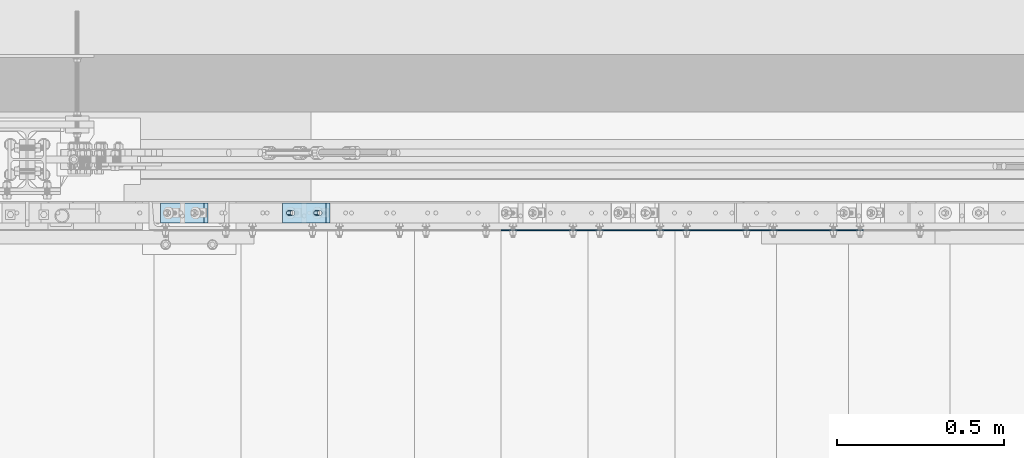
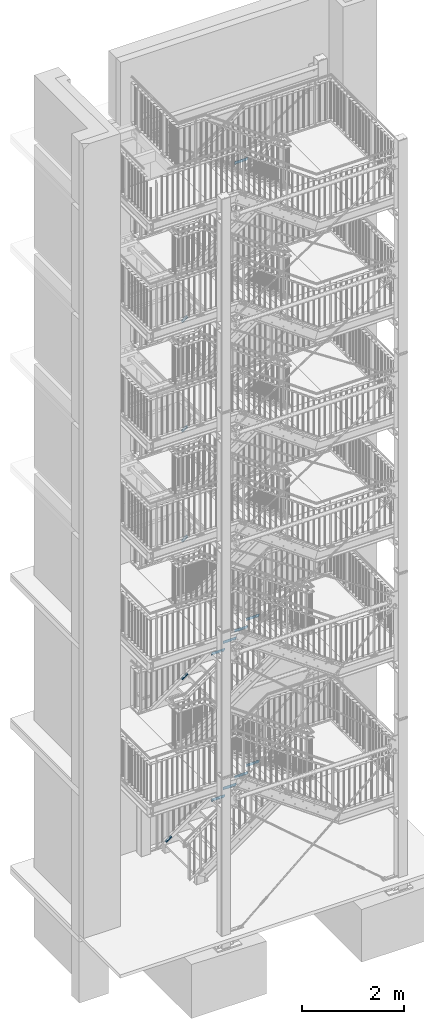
# One storey, part 192 of 821: 14 plates, 28 openings.
"""IFC2X3 building model written with IfcOpenShell, lengths in millimetres."""

from ifc_helpers import new_model, entity, si_unit, converted_unit, point, frame, frame_2d, origin, origin_with_axes, origin_2d_with_axis, place, context, project, spatial, polyline, circle_curve, line_curve, trimmed, segment, composite_curve, circle, outline, extrude, material, layer, layer_set, element, save


model = new_model("IFC2X3")

# Units and contexts
model_context = context("Model", 3, precision=1e-09, world=origin_with_axes())
ifc_project = project(units=[si_unit("LENGTHUNIT", "METRE", prefix="MILLI"), si_unit("AREAUNIT", "SQUARE_METRE"), si_unit("VOLUMEUNIT", "CUBIC_METRE"), converted_unit("PLANEANGLEUNIT", "DEGREE", entity("IfcPlaneAngleMeasure", 0.01745329), si_unit("PLANEANGLEUNIT", "RADIAN"), dimensions=[0, 0, 0, 0, 0, 0, 0])], contexts=[model_context])

# Site, building, storey
site_placement = place(None, origin_with_axes())
site = spatial("IfcSite", under=ifc_project, at=site_placement, Name="Cnopf'sche Kinderklinik", CompositionType="ELEMENT")
building_placement = place(site_placement, origin_with_axes())
building = spatial("IfcBuilding", under=site, at=building_placement, Name="Struktur 1", CompositionType="ELEMENT")
storey_placement = place(building_placement, origin_with_axes())
storey = spatial("IfcBuildingStorey", under=building, at=storey_placement, Name="Default Storey", CompositionType="ELEMENT", Elevation=0.0)

# Plate, openings
ifc_material = material(Name="S235JR")
ifc_layer_1 = layer(ifc_material, 3.0)
ifc_layer_set_1 = layer_set([ifc_layer_1], Name="S235JR")
plate_1_placement = place(None, frame((6796.713402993, 7306.736971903, 16376.8571432), z_axis=(0.0, -1.0, 0.0), x_axis=(0.0, 0.0, -1.0)))
plate_1 = element("IfcPlate", 1, at=plate_1_placement, inside=storey, material=ifc_layer_set_1, Name="Grate_Step#37", ObjectType="Grate_Step#37", context=model_context, shape_type="SweptSolid", body=[
    extrude(outline(polyline([(0.0, 0.0), (70.0, 0.0), (70.0, 275.0), (40.0, 305.0), (0.0, 305.0), (0.0, 0.0)])), origin_with_axes(), (0.0, 0.0, 1.0), 3.0),
])
opening_1_placement = place(plate_1_placement, frame((55.0, 35.0, 3.5), z_axis=(0.0, 0.0, -1.0), x_axis=(0.0, 1.0, 0.0)))
element("IfcOpeningElement", 2, at=opening_1_placement, cuts=plate_1, ObjectType="Opening", context=model_context, shape_type="SweptSolid", body=[
    extrude(circle(Radius=7.001, at=origin_2d_with_axis()), origin(), (0.0, 0.0, 1.0), 4.0),
])
opening_2_placement = place(plate_1_placement, frame((55.0, 215.0, 3.5), z_axis=(0.0, 0.0, -1.0), x_axis=(0.0, 1.0, 0.0)))
element("IfcOpeningElement", 3, at=opening_2_placement, cuts=plate_1, ObjectType="Opening", context=model_context, shape_type="SweptSolid", body=[
    extrude(outline(composite_curve([segment(trimmed(line_curve((-9.5, -7.001), (1.0, 0.0), 19.0), [point((-9.5, -7.001))], [point((9.5, -7.001))], True, "CARTESIAN"), True, "CONTINUOUS"), segment(trimmed(circle_curve(frame_2d((9.5, 0.0), x_axis=(1.0, 0.0)), 7.001), [point((9.5, -7.001))], [point((9.5, 7.001))], True, "CARTESIAN"), True, "CONTINUOUS"), segment(trimmed(line_curve((9.5, 7.001), (-1.0, 0.0), 19.0), [point((9.5, 7.001))], [point((-9.5, 7.001))], True, "CARTESIAN"), True, "CONTINUOUS"), segment(trimmed(circle_curve(frame_2d((-9.5, 0.0), x_axis=(1.0, 0.0)), 7.001), [point((-9.5, 7.001))], [point((-9.5, -7.001))], True, "CARTESIAN"), True, "CONTINUOUS")], self_intersect=False)), origin(), (0.0, 0.0, 1.0), 4.0),
])

ifc_layer_2 = layer(ifc_material, 20.0)
ifc_layer_set_2 = layer_set([ifc_layer_2], Name="S235JR")
plate_2_placement = place(None, frame((5398.387570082, 7386.736971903, 670.208105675), z_axis=(-0.579973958, 0.0, 0.814635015), x_axis=(-0.814635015, 0.0, -0.579973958)))
plate_2 = element("IfcPlate", 4, at=plate_2_placement, inside=storey, material=ifc_layer_set_2, Name="Plate#500", ObjectType="Plate#500", context=model_context, shape_type="SweptSolid", body=[
    extrude(outline(polyline([(0.0, 0.0), (160.0, 0.0), (160.0, 60.0), (0.0, 60.0), (0.0, 0.0)])), origin_with_axes(), (0.0, 0.0, 1.0), 20.0),
])
opening_3_placement = place(plate_2_placement, frame((38.0, 37.001, 20.5), z_axis=(0.0, 0.0, 1.0), x_axis=(-1.0, 0.0, 0.0)))
element("IfcOpeningElement", 5, at=opening_3_placement, cuts=plate_2, ObjectType="Opening", context=model_context, shape_type="SweptSolid", body=[
    extrude(outline(composite_curve([segment(trimmed(line_curve((0.0, 0.0), (1.0, 0.0), 16.0), [point((0.0, 0.0))], [point((16.0, 0.0))], True, "CARTESIAN"), True, "CONTINUOUS"), segment(trimmed(circle_curve(frame_2d((16.0, 7.001), x_axis=(1.0, 0.0)), 7.001), [point((16.0, 0.0))], [point((16.0, 14.002))], True, "CARTESIAN"), True, "CONTINUOUS"), segment(trimmed(line_curve((16.0, 14.002), (-1.0, 0.0), 16.0), [point((16.0, 14.002))], [point((0.0, 14.002))], True, "CARTESIAN"), True, "CONTINUOUS"), segment(trimmed(circle_curve(frame_2d((0.0, 7.001), x_axis=(1.0, 0.0)), 7.001), [point((0.0, 14.002))], [point((0.0, 0.0))], True, "CARTESIAN"), True, "CONTINUOUS")], self_intersect=False)), origin(), (0.0, 0.0, -1.0), 21.0),
])
opening_4_placement = place(plate_2_placement, frame((138.0, 37.001, 20.5), z_axis=(0.0, 0.0, 1.0), x_axis=(-1.0, 0.0, 0.0)))
element("IfcOpeningElement", 6, at=opening_4_placement, cuts=plate_2, ObjectType="Opening", context=model_context, shape_type="SweptSolid", body=[
    extrude(outline(composite_curve([segment(trimmed(line_curve((0.0, 0.0), (1.0, 0.0), 16.0), [point((0.0, 0.0))], [point((16.0, 0.0))], True, "CARTESIAN"), True, "CONTINUOUS"), segment(trimmed(circle_curve(frame_2d((16.0, 7.001), x_axis=(1.0, 0.0)), 7.001), [point((16.0, 0.0))], [point((16.0, 14.002))], True, "CARTESIAN"), True, "CONTINUOUS"), segment(trimmed(line_curve((16.0, 14.002), (-1.0, 0.0), 16.0), [point((16.0, 14.002))], [point((0.0, 14.002))], True, "CARTESIAN"), True, "CONTINUOUS"), segment(trimmed(circle_curve(frame_2d((0.0, 7.001), x_axis=(1.0, 0.0)), 7.001), [point((0.0, 14.002))], [point((0.0, 0.0))], True, "CARTESIAN"), True, "CONTINUOUS")], self_intersect=False)), origin(), (0.0, 0.0, -1.0), 21.0),
])

plate_3_placement = place(None, frame((5763.731258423, 7386.736971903, 4440.302229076), z_axis=(-0.575128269, 0.0, 0.818063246), x_axis=(-0.818063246, 0.0, -0.575128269)))
plate_3 = element("IfcPlate", 7, at=plate_3_placement, inside=storey, material=ifc_layer_set_2, Name="Plate#501", ObjectType="Plate#501", context=model_context, shape_type="SweptSolid", body=[
    extrude(outline(polyline([(0.0, 0.0), (160.0, 0.0), (160.0, 60.0), (0.0, 60.0), (0.0, 0.0)])), origin_with_axes(), (0.0, 0.0, 1.0), 20.0),
])
opening_5_placement = place(plate_3_placement, frame((38.0, 37.001, 20.5), z_axis=(0.0, 0.0, 1.0), x_axis=(-1.0, 0.0, 0.0)))
element("IfcOpeningElement", 8, at=opening_5_placement, cuts=plate_3, ObjectType="Opening", context=model_context, shape_type="SweptSolid", body=[
    extrude(outline(composite_curve([segment(trimmed(line_curve((0.0, 0.0), (1.0, 0.0), 16.0), [point((0.0, 0.0))], [point((16.0, 0.0))], True, "CARTESIAN"), True, "CONTINUOUS"), segment(trimmed(circle_curve(frame_2d((16.0, 7.001), x_axis=(1.0, 0.0)), 7.001), [point((16.0, 0.0))], [point((16.0, 14.002))], True, "CARTESIAN"), True, "CONTINUOUS"), segment(trimmed(line_curve((16.0, 14.002), (-1.0, 0.0), 16.0), [point((16.0, 14.002))], [point((0.0, 14.002))], True, "CARTESIAN"), True, "CONTINUOUS"), segment(trimmed(circle_curve(frame_2d((0.0, 7.001), x_axis=(1.0, 0.0)), 7.001), [point((0.0, 14.002))], [point((0.0, 0.0))], True, "CARTESIAN"), True, "CONTINUOUS")], self_intersect=False)), origin(), (0.0, 0.0, -1.0), 21.0),
])
opening_6_placement = place(plate_3_placement, frame((138.0, 37.001, 20.5), z_axis=(0.0, 0.0, 1.0), x_axis=(-1.0, 0.0, 0.0)))
element("IfcOpeningElement", 9, at=opening_6_placement, cuts=plate_3, ObjectType="Opening", context=model_context, shape_type="SweptSolid", body=[
    extrude(outline(composite_curve([segment(trimmed(line_curve((0.0, 0.0), (1.0, 0.0), 16.0), [point((0.0, 0.0))], [point((16.0, 0.0))], True, "CARTESIAN"), True, "CONTINUOUS"), segment(trimmed(circle_curve(frame_2d((16.0, 7.001), x_axis=(1.0, 0.0)), 7.001), [point((16.0, 0.0))], [point((16.0, 14.002))], True, "CARTESIAN"), True, "CONTINUOUS"), segment(trimmed(line_curve((16.0, 14.002), (-1.0, 0.0), 16.0), [point((16.0, 14.002))], [point((0.0, 14.002))], True, "CARTESIAN"), True, "CONTINUOUS"), segment(trimmed(circle_curve(frame_2d((0.0, 7.001), x_axis=(1.0, 0.0)), 7.001), [point((0.0, 14.002))], [point((0.0, 0.0))], True, "CARTESIAN"), True, "CONTINUOUS")], self_intersect=False)), origin(), (0.0, 0.0, -1.0), 21.0),
])

plate_4_placement = place(None, frame((5763.236162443, 7386.736971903, 7740.716456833), z_axis=(-0.585945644, 0.0, 0.810350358), x_axis=(-0.810350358, 0.0, -0.585945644)))
plate_4 = element("IfcPlate", 10, at=plate_4_placement, inside=storey, material=ifc_layer_set_2, Name="Plate#501", ObjectType="Plate#501", context=model_context, shape_type="SweptSolid", body=[
    extrude(outline(polyline([(0.0, 0.0), (160.0, 0.0), (160.0, 60.0), (0.0, 60.0), (0.0, 0.0)])), origin_with_axes(), (0.0, 0.0, 1.0), 20.0),
])
opening_7_placement = place(plate_4_placement, frame((38.0, 37.001, 20.5), z_axis=(0.0, 0.0, 1.0), x_axis=(-1.0, 0.0, 0.0)))
element("IfcOpeningElement", 11, at=opening_7_placement, cuts=plate_4, ObjectType="Opening", context=model_context, shape_type="SweptSolid", body=[
    extrude(outline(composite_curve([segment(trimmed(line_curve((0.0, 0.0), (1.0, 0.0), 16.0), [point((0.0, 0.0))], [point((16.0, 0.0))], True, "CARTESIAN"), True, "CONTINUOUS"), segment(trimmed(circle_curve(frame_2d((16.0, 7.001), x_axis=(1.0, 0.0)), 7.001), [point((16.0, 0.0))], [point((16.0, 14.002))], True, "CARTESIAN"), True, "CONTINUOUS"), segment(trimmed(line_curve((16.0, 14.002), (-1.0, 0.0), 16.0), [point((16.0, 14.002))], [point((0.0, 14.002))], True, "CARTESIAN"), True, "CONTINUOUS"), segment(trimmed(circle_curve(frame_2d((0.0, 7.001), x_axis=(1.0, 0.0)), 7.001), [point((0.0, 14.002))], [point((0.0, 0.0))], True, "CARTESIAN"), True, "CONTINUOUS")], self_intersect=False)), origin(), (0.0, 0.0, -1.0), 21.0),
])
opening_8_placement = place(plate_4_placement, frame((138.0, 37.001, 20.5), z_axis=(0.0, 0.0, 1.0), x_axis=(-1.0, 0.0, 0.0)))
element("IfcOpeningElement", 12, at=opening_8_placement, cuts=plate_4, ObjectType="Opening", context=model_context, shape_type="SweptSolid", body=[
    extrude(outline(composite_curve([segment(trimmed(line_curve((0.0, 0.0), (1.0, 0.0), 16.0), [point((0.0, 0.0))], [point((16.0, 0.0))], True, "CARTESIAN"), True, "CONTINUOUS"), segment(trimmed(circle_curve(frame_2d((16.0, 7.001), x_axis=(1.0, 0.0)), 7.001), [point((16.0, 0.0))], [point((16.0, 14.002))], True, "CARTESIAN"), True, "CONTINUOUS"), segment(trimmed(line_curve((16.0, 14.002), (-1.0, 0.0), 16.0), [point((16.0, 14.002))], [point((0.0, 14.002))], True, "CARTESIAN"), True, "CONTINUOUS"), segment(trimmed(circle_curve(frame_2d((0.0, 7.001), x_axis=(1.0, 0.0)), 7.001), [point((0.0, 14.002))], [point((0.0, 0.0))], True, "CARTESIAN"), True, "CONTINUOUS")], self_intersect=False)), origin(), (0.0, 0.0, -1.0), 21.0),
])

plate_5_placement = place(None, frame((5763.281182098, 7386.736971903, 10372.025702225), z_axis=(-0.585213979, 0.0, 0.810878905), x_axis=(-0.810878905, 0.0, -0.585213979)))
plate_5 = element("IfcPlate", 13, at=plate_5_placement, inside=storey, material=ifc_layer_set_2, Name="Plate#501", ObjectType="Plate#501", context=model_context, shape_type="SweptSolid", body=[
    extrude(outline(polyline([(0.0, 0.0), (160.0, 0.0), (160.0, 60.0), (0.0, 60.0), (0.0, 0.0)])), origin_with_axes(), (0.0, 0.0, 1.0), 20.0),
])
opening_9_placement = place(plate_5_placement, frame((38.0, 37.001, 20.5), z_axis=(0.0, 0.0, 1.0), x_axis=(-1.0, 0.0, 0.0)))
element("IfcOpeningElement", 14, at=opening_9_placement, cuts=plate_5, ObjectType="Opening", context=model_context, shape_type="SweptSolid", body=[
    extrude(outline(composite_curve([segment(trimmed(line_curve((0.0, 0.0), (1.0, 0.0), 16.0), [point((0.0, 0.0))], [point((16.0, 0.0))], True, "CARTESIAN"), True, "CONTINUOUS"), segment(trimmed(circle_curve(frame_2d((16.0, 7.001), x_axis=(1.0, 0.0)), 7.001), [point((16.0, 0.0))], [point((16.0, 14.002))], True, "CARTESIAN"), True, "CONTINUOUS"), segment(trimmed(line_curve((16.0, 14.002), (-1.0, 0.0), 16.0), [point((16.0, 14.002))], [point((0.0, 14.002))], True, "CARTESIAN"), True, "CONTINUOUS"), segment(trimmed(circle_curve(frame_2d((0.0, 7.001), x_axis=(1.0, 0.0)), 7.001), [point((0.0, 14.002))], [point((0.0, 0.0))], True, "CARTESIAN"), True, "CONTINUOUS")], self_intersect=False)), origin(), (0.0, 0.0, -1.0), 21.0),
])
opening_10_placement = place(plate_5_placement, frame((138.0, 37.001, 20.5), z_axis=(0.0, 0.0, 1.0), x_axis=(-1.0, 0.0, 0.0)))
element("IfcOpeningElement", 15, at=opening_10_placement, cuts=plate_5, ObjectType="Opening", context=model_context, shape_type="SweptSolid", body=[
    extrude(outline(composite_curve([segment(trimmed(line_curve((0.0, 0.0), (1.0, 0.0), 16.0), [point((0.0, 0.0))], [point((16.0, 0.0))], True, "CARTESIAN"), True, "CONTINUOUS"), segment(trimmed(circle_curve(frame_2d((16.0, 7.001), x_axis=(1.0, 0.0)), 7.001), [point((16.0, 0.0))], [point((16.0, 14.002))], True, "CARTESIAN"), True, "CONTINUOUS"), segment(trimmed(line_curve((16.0, 14.002), (-1.0, 0.0), 16.0), [point((16.0, 14.002))], [point((0.0, 14.002))], True, "CARTESIAN"), True, "CONTINUOUS"), segment(trimmed(circle_curve(frame_2d((0.0, 7.001), x_axis=(1.0, 0.0)), 7.001), [point((0.0, 14.002))], [point((0.0, 0.0))], True, "CARTESIAN"), True, "CONTINUOUS")], self_intersect=False)), origin(), (0.0, 0.0, -1.0), 21.0),
])

plate_6_placement = place(None, frame((5763.209151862, 7386.736971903, 13000.130851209), z_axis=(-0.586383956, 0.0, 0.810033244), x_axis=(-0.810033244, 0.0, -0.586383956)))
plate_6 = element("IfcPlate", 16, at=plate_6_placement, inside=storey, material=ifc_layer_set_2, Name="Plate#501", ObjectType="Plate#501", context=model_context, shape_type="SweptSolid", body=[
    extrude(outline(polyline([(0.0, 0.0), (160.0, 0.0), (160.0, 60.0), (0.0, 60.0), (0.0, 0.0)])), origin_with_axes(), (0.0, 0.0, 1.0), 20.0),
])
opening_11_placement = place(plate_6_placement, frame((38.0, 37.001, 20.5), z_axis=(0.0, 0.0, 1.0), x_axis=(-1.0, 0.0, 0.0)))
element("IfcOpeningElement", 17, at=opening_11_placement, cuts=plate_6, ObjectType="Opening", context=model_context, shape_type="SweptSolid", body=[
    extrude(outline(composite_curve([segment(trimmed(line_curve((0.0, 0.0), (1.0, 0.0), 16.0), [point((0.0, 0.0))], [point((16.0, 0.0))], True, "CARTESIAN"), True, "CONTINUOUS"), segment(trimmed(circle_curve(frame_2d((16.0, 7.001), x_axis=(1.0, 0.0)), 7.001), [point((16.0, 0.0))], [point((16.0, 14.002))], True, "CARTESIAN"), True, "CONTINUOUS"), segment(trimmed(line_curve((16.0, 14.002), (-1.0, 0.0), 16.0), [point((16.0, 14.002))], [point((0.0, 14.002))], True, "CARTESIAN"), True, "CONTINUOUS"), segment(trimmed(circle_curve(frame_2d((0.0, 7.001), x_axis=(1.0, 0.0)), 7.001), [point((0.0, 14.002))], [point((0.0, 0.0))], True, "CARTESIAN"), True, "CONTINUOUS")], self_intersect=False)), origin(), (0.0, 0.0, -1.0), 21.0),
])
opening_12_placement = place(plate_6_placement, frame((138.0, 37.001, 20.5), z_axis=(0.0, 0.0, 1.0), x_axis=(-1.0, 0.0, 0.0)))
element("IfcOpeningElement", 18, at=opening_12_placement, cuts=plate_6, ObjectType="Opening", context=model_context, shape_type="SweptSolid", body=[
    extrude(outline(composite_curve([segment(trimmed(line_curve((0.0, 0.0), (1.0, 0.0), 16.0), [point((0.0, 0.0))], [point((16.0, 0.0))], True, "CARTESIAN"), True, "CONTINUOUS"), segment(trimmed(circle_curve(frame_2d((16.0, 7.001), x_axis=(1.0, 0.0)), 7.001), [point((16.0, 0.0))], [point((16.0, 14.002))], True, "CARTESIAN"), True, "CONTINUOUS"), segment(trimmed(line_curve((16.0, 14.002), (-1.0, 0.0), 16.0), [point((16.0, 14.002))], [point((0.0, 14.002))], True, "CARTESIAN"), True, "CONTINUOUS"), segment(trimmed(circle_curve(frame_2d((0.0, 7.001), x_axis=(1.0, 0.0)), 7.001), [point((0.0, 14.002))], [point((0.0, 0.0))], True, "CARTESIAN"), True, "CONTINUOUS")], self_intersect=False)), origin(), (0.0, 0.0, -1.0), 21.0),
])

plate_7_placement = place(None, frame((6276.713402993, 7306.736971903, 1295.5263152), z_axis=(0.0, -1.0, 0.0), x_axis=(0.0, 0.0, -1.0)))
plate_7 = element("IfcPlate", 19, at=plate_7_placement, inside=storey, material=ifc_layer_set_1, Name="Grate_Step#30", ObjectType="Grate_Step#30", context=model_context, shape_type="SweptSolid", body=[
    extrude(outline(polyline([(0.0, 0.0), (70.0, 0.0), (70.0, 275.0), (40.0, 305.0), (0.0, 305.0), (0.0, 0.0)])), origin_with_axes(), (0.0, 0.0, 1.0), 3.0),
])
opening_13_placement = place(plate_7_placement, frame((55.0, 35.0, 3.5), z_axis=(0.0, 0.0, -1.0), x_axis=(0.0, 1.0, 0.0)))
element("IfcOpeningElement", 20, at=opening_13_placement, cuts=plate_7, ObjectType="Opening", context=model_context, shape_type="SweptSolid", body=[
    extrude(circle(Radius=7.001, at=origin_2d_with_axis()), origin(), (0.0, 0.0, 1.0), 4.0),
])
opening_14_placement = place(plate_7_placement, frame((55.0, 215.0, 3.5), z_axis=(0.0, 0.0, -1.0), x_axis=(0.0, 1.0, 0.0)))
element("IfcOpeningElement", 21, at=opening_14_placement, cuts=plate_7, ObjectType="Opening", context=model_context, shape_type="SweptSolid", body=[
    extrude(outline(composite_curve([segment(trimmed(line_curve((-9.5, -7.001), (1.0, 0.0), 19.0), [point((-9.5, -7.001))], [point((9.5, -7.001))], True, "CARTESIAN"), True, "CONTINUOUS"), segment(trimmed(circle_curve(frame_2d((9.5, 0.0), x_axis=(1.0, 0.0)), 7.001), [point((9.5, -7.001))], [point((9.5, 7.001))], True, "CARTESIAN"), True, "CONTINUOUS"), segment(trimmed(line_curve((9.5, 7.001), (-1.0, 0.0), 19.0), [point((9.5, 7.001))], [point((-9.5, 7.001))], True, "CARTESIAN"), True, "CONTINUOUS"), segment(trimmed(circle_curve(frame_2d((-9.5, 0.0), x_axis=(1.0, 0.0)), 7.001), [point((-9.5, 7.001))], [point((-9.5, -7.001))], True, "CARTESIAN"), True, "CONTINUOUS")], self_intersect=False)), origin(), (0.0, 0.0, 1.0), 4.0),
])

plate_8_placement = place(None, frame((6796.713402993, 7306.736971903, 1665.7368416), z_axis=(0.0, -1.0, 0.0), x_axis=(0.0, 0.0, -1.0)))
plate_8 = element("IfcPlate", 22, at=plate_8_placement, inside=storey, material=ifc_layer_set_1, Name="Grate_Step#44", ObjectType="Grate_Step#44", context=model_context, shape_type="SweptSolid", body=[
    extrude(outline(polyline([(0.0, 0.0), (70.0, 0.0), (70.0, 275.0), (40.0, 305.0), (0.0, 305.0), (0.0, 0.0)])), origin_with_axes(), (0.0, 0.0, 1.0), 3.0),
])
opening_15_placement = place(plate_8_placement, frame((55.0, 35.0, 3.5), z_axis=(0.0, 0.0, -1.0), x_axis=(0.0, 1.0, 0.0)))
element("IfcOpeningElement", 23, at=opening_15_placement, cuts=plate_8, ObjectType="Opening", context=model_context, shape_type="SweptSolid", body=[
    extrude(circle(Radius=7.001, at=origin_2d_with_axis()), origin(), (0.0, 0.0, 1.0), 4.0),
])
opening_16_placement = place(plate_8_placement, frame((55.0, 215.0, 3.5), z_axis=(0.0, 0.0, -1.0), x_axis=(0.0, 1.0, 0.0)))
element("IfcOpeningElement", 24, at=opening_16_placement, cuts=plate_8, ObjectType="Opening", context=model_context, shape_type="SweptSolid", body=[
    extrude(outline(composite_curve([segment(trimmed(line_curve((-9.5, -7.001), (1.0, 0.0), 19.0), [point((-9.5, -7.001))], [point((9.5, -7.001))], True, "CARTESIAN"), True, "CONTINUOUS"), segment(trimmed(circle_curve(frame_2d((9.5, 0.0), x_axis=(1.0, 0.0)), 7.001), [point((9.5, -7.001))], [point((9.5, 7.001))], True, "CARTESIAN"), True, "CONTINUOUS"), segment(trimmed(line_curve((9.5, 7.001), (-1.0, 0.0), 19.0), [point((9.5, 7.001))], [point((-9.5, 7.001))], True, "CARTESIAN"), True, "CONTINUOUS"), segment(trimmed(circle_curve(frame_2d((-9.5, 0.0), x_axis=(1.0, 0.0)), 7.001), [point((-9.5, 7.001))], [point((-9.5, -7.001))], True, "CARTESIAN"), True, "CONTINUOUS")], self_intersect=False)), origin(), (0.0, 0.0, 1.0), 4.0),
])

plate_9_placement = place(None, frame((6536.713402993, 7306.736971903, 4983.7368419), z_axis=(0.0, -1.0, 0.0), x_axis=(0.0, 0.0, -1.0)))
plate_9 = element("IfcPlate", 25, at=plate_9_placement, inside=storey, material=ifc_layer_set_1, Name="Grate_Step#37", ObjectType="Grate_Step#37", context=model_context, shape_type="SweptSolid", body=[
    extrude(outline(polyline([(0.0, 0.0), (70.0, 0.0), (70.0, 275.0), (40.0, 305.0), (0.0, 305.0), (0.0, 0.0)])), origin_with_axes(), (0.0, 0.0, 1.0), 3.0),
])
opening_17_placement = place(plate_9_placement, frame((55.0, 35.0, 3.5), z_axis=(0.0, 0.0, -1.0), x_axis=(0.0, 1.0, 0.0)))
element("IfcOpeningElement", 26, at=opening_17_placement, cuts=plate_9, ObjectType="Opening", context=model_context, shape_type="SweptSolid", body=[
    extrude(circle(Radius=7.001, at=origin_2d_with_axis()), origin(), (0.0, 0.0, 1.0), 4.0),
])
opening_18_placement = place(plate_9_placement, frame((55.0, 215.0, 3.5), z_axis=(0.0, 0.0, -1.0), x_axis=(0.0, 1.0, 0.0)))
element("IfcOpeningElement", 27, at=opening_18_placement, cuts=plate_9, ObjectType="Opening", context=model_context, shape_type="SweptSolid", body=[
    extrude(outline(composite_curve([segment(trimmed(line_curve((-9.5, -7.001), (1.0, 0.0), 19.0), [point((-9.5, -7.001))], [point((9.5, -7.001))], True, "CARTESIAN"), True, "CONTINUOUS"), segment(trimmed(circle_curve(frame_2d((9.5, 0.0), x_axis=(1.0, 0.0)), 7.001), [point((9.5, -7.001))], [point((9.5, 7.001))], True, "CARTESIAN"), True, "CONTINUOUS"), segment(trimmed(line_curve((9.5, 7.001), (-1.0, 0.0), 19.0), [point((9.5, 7.001))], [point((-9.5, 7.001))], True, "CARTESIAN"), True, "CONTINUOUS"), segment(trimmed(circle_curve(frame_2d((-9.5, 0.0), x_axis=(1.0, 0.0)), 7.001), [point((-9.5, 7.001))], [point((-9.5, -7.001))], True, "CARTESIAN"), True, "CONTINUOUS")], self_intersect=False)), origin(), (0.0, 0.0, 1.0), 4.0),
])

plate_10_placement = place(None, frame((7056.713402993, 7306.736971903, 5349.3157893), z_axis=(0.0, -1.0, 0.0), x_axis=(0.0, 0.0, -1.0)))
plate_10 = element("IfcPlate", 28, at=plate_10_placement, inside=storey, material=ifc_layer_set_1, Name="Grate_Step#51", ObjectType="Grate_Step#51", context=model_context, shape_type="SweptSolid", body=[
    extrude(outline(polyline([(0.0, 0.0), (70.0, 0.0), (70.0, 275.0), (40.0, 305.0), (0.0, 305.0), (0.0, 0.0)])), origin_with_axes(), (0.0, 0.0, 1.0), 3.0),
])
opening_19_placement = place(plate_10_placement, frame((55.0, 215.0, 3.5), z_axis=(0.0, 0.0, -1.0), x_axis=(0.0, 1.0, 0.0)))
element("IfcOpeningElement", 29, at=opening_19_placement, cuts=plate_10, ObjectType="Opening", context=model_context, shape_type="SweptSolid", body=[
    extrude(outline(composite_curve([segment(trimmed(line_curve((-9.5, -7.001), (1.0, 0.0), 19.0), [point((-9.5, -7.001))], [point((9.5, -7.001))], True, "CARTESIAN"), True, "CONTINUOUS"), segment(trimmed(circle_curve(frame_2d((9.5, 0.0), x_axis=(1.0, 0.0)), 7.001), [point((9.5, -7.001))], [point((9.5, 7.001))], True, "CARTESIAN"), True, "CONTINUOUS"), segment(trimmed(line_curve((9.5, 7.001), (-1.0, 0.0), 19.0), [point((9.5, 7.001))], [point((-9.5, 7.001))], True, "CARTESIAN"), True, "CONTINUOUS"), segment(trimmed(circle_curve(frame_2d((-9.5, 0.0), x_axis=(1.0, 0.0)), 7.001), [point((-9.5, 7.001))], [point((-9.5, -7.001))], True, "CARTESIAN"), True, "CONTINUOUS")], self_intersect=False)), origin(), (0.0, 0.0, 1.0), 4.0),
])
opening_20_placement = place(plate_10_placement, frame((55.0, 35.0, 3.5), z_axis=(0.0, 0.0, -1.0), x_axis=(0.0, 1.0, 0.0)))
element("IfcOpeningElement", 30, at=opening_20_placement, cuts=plate_10, ObjectType="Opening", context=model_context, shape_type="SweptSolid", body=[
    extrude(circle(Radius=7.001, at=origin_2d_with_axis()), origin(), (0.0, 0.0, 1.0), 4.0),
])

plate_11_placement = place(None, frame((6276.713402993, 7306.736971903, 4800.9473682), z_axis=(0.0, -1.0, 0.0), x_axis=(0.0, 0.0, -1.0)))
plate_11 = element("IfcPlate", 31, at=plate_11_placement, inside=storey, material=ifc_layer_set_1, Name="Grate_Step#30", ObjectType="Grate_Step#30", context=model_context, shape_type="SweptSolid", body=[
    extrude(outline(polyline([(0.0, 0.0), (70.0, 0.0), (70.0, 275.0), (40.0, 305.0), (0.0, 305.0), (0.0, 0.0)])), origin_with_axes(), (0.0, 0.0, 1.0), 3.0),
])
opening_21_placement = place(plate_11_placement, frame((55.0, 215.0, 3.5), z_axis=(0.0, 0.0, -1.0), x_axis=(0.0, 1.0, 0.0)))
element("IfcOpeningElement", 32, at=opening_21_placement, cuts=plate_11, ObjectType="Opening", context=model_context, shape_type="SweptSolid", body=[
    extrude(outline(composite_curve([segment(trimmed(line_curve((-9.5, -7.001), (1.0, 0.0), 19.0), [point((-9.5, -7.001))], [point((9.5, -7.001))], True, "CARTESIAN"), True, "CONTINUOUS"), segment(trimmed(circle_curve(frame_2d((9.5, 0.0), x_axis=(1.0, 0.0)), 7.001), [point((9.5, -7.001))], [point((9.5, 7.001))], True, "CARTESIAN"), True, "CONTINUOUS"), segment(trimmed(line_curve((9.5, 7.001), (-1.0, 0.0), 19.0), [point((9.5, 7.001))], [point((-9.5, 7.001))], True, "CARTESIAN"), True, "CONTINUOUS"), segment(trimmed(circle_curve(frame_2d((-9.5, 0.0), x_axis=(1.0, 0.0)), 7.001), [point((-9.5, 7.001))], [point((-9.5, -7.001))], True, "CARTESIAN"), True, "CONTINUOUS")], self_intersect=False)), origin(), (0.0, 0.0, 1.0), 4.0),
])
opening_22_placement = place(plate_11_placement, frame((55.0, 35.0, 3.5), z_axis=(0.0, 0.0, -1.0), x_axis=(0.0, 1.0, 0.0)))
element("IfcOpeningElement", 33, at=opening_22_placement, cuts=plate_11, ObjectType="Opening", context=model_context, shape_type="SweptSolid", body=[
    extrude(circle(Radius=7.001, at=origin_2d_with_axis()), origin(), (0.0, 0.0, 1.0), 4.0),
])

plate_12_placement = place(None, frame((6796.713402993, 7306.736971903, 5166.5263156), z_axis=(0.0, -1.0, 0.0), x_axis=(0.0, 0.0, -1.0)))
plate_12 = element("IfcPlate", 34, at=plate_12_placement, inside=storey, material=ifc_layer_set_1, Name="Grate_Step#44", ObjectType="Grate_Step#44", context=model_context, shape_type="SweptSolid", body=[
    extrude(outline(polyline([(0.0, 0.0), (70.0, 0.0), (70.0, 275.0), (40.0, 305.0), (0.0, 305.0), (0.0, 0.0)])), origin_with_axes(), (0.0, 0.0, 1.0), 3.0),
])
opening_23_placement = place(plate_12_placement, frame((55.0, 35.0, 3.5), z_axis=(0.0, 0.0, -1.0), x_axis=(0.0, 1.0, 0.0)))
element("IfcOpeningElement", 35, at=opening_23_placement, cuts=plate_12, ObjectType="Opening", context=model_context, shape_type="SweptSolid", body=[
    extrude(circle(Radius=7.001, at=origin_2d_with_axis()), origin(), (0.0, 0.0, 1.0), 4.0),
])
opening_24_placement = place(plate_12_placement, frame((55.0, 215.0, 3.5), z_axis=(0.0, 0.0, -1.0), x_axis=(0.0, 1.0, 0.0)))
element("IfcOpeningElement", 36, at=opening_24_placement, cuts=plate_12, ObjectType="Opening", context=model_context, shape_type="SweptSolid", body=[
    extrude(outline(composite_curve([segment(trimmed(line_curve((-9.5, -7.001), (1.0, 0.0), 19.0), [point((-9.5, -7.001))], [point((9.5, -7.001))], True, "CARTESIAN"), True, "CONTINUOUS"), segment(trimmed(circle_curve(frame_2d((9.5, 0.0), x_axis=(1.0, 0.0)), 7.001), [point((9.5, -7.001))], [point((9.5, 7.001))], True, "CARTESIAN"), True, "CONTINUOUS"), segment(trimmed(line_curve((9.5, 7.001), (-1.0, 0.0), 19.0), [point((9.5, 7.001))], [point((-9.5, 7.001))], True, "CARTESIAN"), True, "CONTINUOUS"), segment(trimmed(circle_curve(frame_2d((-9.5, 0.0), x_axis=(1.0, 0.0)), 7.001), [point((-9.5, 7.001))], [point((-9.5, -7.001))], True, "CARTESIAN"), True, "CONTINUOUS")], self_intersect=False)), origin(), (0.0, 0.0, 1.0), 4.0),
])

plate_13_placement = place(None, frame((6536.713402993, 7306.736971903, 1480.6315784), z_axis=(0.0, -1.0, 0.0), x_axis=(0.0, 0.0, -1.0)))
plate_13 = element("IfcPlate", 37, at=plate_13_placement, inside=storey, material=ifc_layer_set_1, Name="Grate_Step#37", ObjectType="Grate_Step#37", context=model_context, shape_type="SweptSolid", body=[
    extrude(outline(polyline([(0.0, 0.0), (70.0, 0.0), (70.0, 275.0), (40.0, 305.0), (0.0, 305.0), (0.0, 0.0)])), origin_with_axes(), (0.0, 0.0, 1.0), 3.0),
])
opening_25_placement = place(plate_13_placement, frame((55.0, 35.0, 3.5), z_axis=(0.0, 0.0, -1.0), x_axis=(0.0, 1.0, 0.0)))
element("IfcOpeningElement", 38, at=opening_25_placement, cuts=plate_13, ObjectType="Opening", context=model_context, shape_type="SweptSolid", body=[
    extrude(circle(Radius=7.001, at=origin_2d_with_axis()), origin(), (0.0, 0.0, 1.0), 4.0),
])
opening_26_placement = place(plate_13_placement, frame((55.0, 215.0, 3.5), z_axis=(0.0, 0.0, -1.0), x_axis=(0.0, 1.0, 0.0)))
element("IfcOpeningElement", 39, at=opening_26_placement, cuts=plate_13, ObjectType="Opening", context=model_context, shape_type="SweptSolid", body=[
    extrude(outline(composite_curve([segment(trimmed(line_curve((-9.5, -7.001), (1.0, 0.0), 19.0), [point((-9.5, -7.001))], [point((9.5, -7.001))], True, "CARTESIAN"), True, "CONTINUOUS"), segment(trimmed(circle_curve(frame_2d((9.5, 0.0), x_axis=(1.0, 0.0)), 7.001), [point((9.5, -7.001))], [point((9.5, 7.001))], True, "CARTESIAN"), True, "CONTINUOUS"), segment(trimmed(line_curve((9.5, 7.001), (-1.0, 0.0), 19.0), [point((9.5, 7.001))], [point((-9.5, 7.001))], True, "CARTESIAN"), True, "CONTINUOUS"), segment(trimmed(circle_curve(frame_2d((-9.5, 0.0), x_axis=(1.0, 0.0)), 7.001), [point((-9.5, 7.001))], [point((-9.5, -7.001))], True, "CARTESIAN"), True, "CONTINUOUS")], self_intersect=False)), origin(), (0.0, 0.0, 1.0), 4.0),
])

plate_14_placement = place(None, frame((7056.713402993, 7306.736971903, 1850.8421048), z_axis=(0.0, -1.0, 0.0), x_axis=(0.0, 0.0, -1.0)))
plate_14 = element("IfcPlate", 40, at=plate_14_placement, inside=storey, material=ifc_layer_set_1, Name="Grate_Step#51", ObjectType="Grate_Step#51", context=model_context, shape_type="SweptSolid", body=[
    extrude(outline(polyline([(0.0, 0.0), (70.0, 0.0), (70.0, 275.0), (40.0, 305.0), (0.0, 305.0), (0.0, 0.0)])), origin_with_axes(), (0.0, 0.0, 1.0), 3.0),
])
opening_27_placement = place(plate_14_placement, frame((55.0, 215.0, 3.5), z_axis=(0.0, 0.0, -1.0), x_axis=(0.0, 1.0, 0.0)))
element("IfcOpeningElement", 41, at=opening_27_placement, cuts=plate_14, ObjectType="Opening", context=model_context, shape_type="SweptSolid", body=[
    extrude(outline(composite_curve([segment(trimmed(line_curve((-9.5, -7.001), (1.0, 0.0), 19.0), [point((-9.5, -7.001))], [point((9.5, -7.001))], True, "CARTESIAN"), True, "CONTINUOUS"), segment(trimmed(circle_curve(frame_2d((9.5, 0.0), x_axis=(1.0, 0.0)), 7.001), [point((9.5, -7.001))], [point((9.5, 7.001))], True, "CARTESIAN"), True, "CONTINUOUS"), segment(trimmed(line_curve((9.5, 7.001), (-1.0, 0.0), 19.0), [point((9.5, 7.001))], [point((-9.5, 7.001))], True, "CARTESIAN"), True, "CONTINUOUS"), segment(trimmed(circle_curve(frame_2d((-9.5, 0.0), x_axis=(1.0, 0.0)), 7.001), [point((-9.5, 7.001))], [point((-9.5, -7.001))], True, "CARTESIAN"), True, "CONTINUOUS")], self_intersect=False)), origin(), (0.0, 0.0, 1.0), 4.0),
])
opening_28_placement = place(plate_14_placement, frame((55.0, 35.0, 3.5), z_axis=(0.0, 0.0, -1.0), x_axis=(0.0, 1.0, 0.0)))
element("IfcOpeningElement", 42, at=opening_28_placement, cuts=plate_14, ObjectType="Opening", context=model_context, shape_type="SweptSolid", body=[
    extrude(circle(Radius=7.001, at=origin_2d_with_axis()), origin(), (0.0, 0.0, 1.0), 4.0),
])

save(model, "model.ifc")
